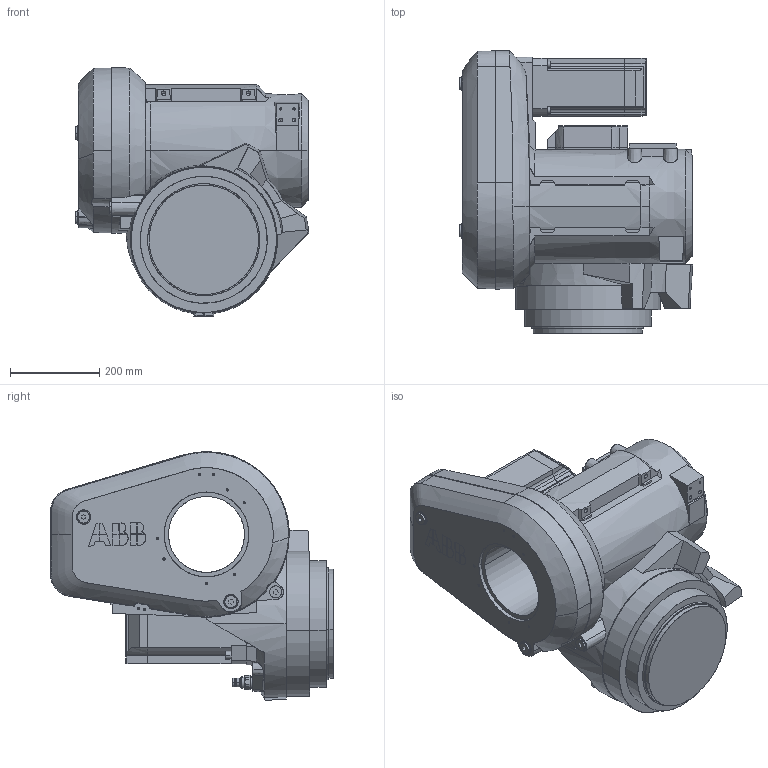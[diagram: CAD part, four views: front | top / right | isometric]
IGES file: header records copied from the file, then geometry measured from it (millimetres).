
Start section: SolidWorks IGES file using analytic representation for surfaces
Global section: file name: B:\Robotics\SEROP_PROJ\Product Development\DevelopmentProjects\RobCal\Design\CAD simuleringsmodeller\Till_RobotStudio\IRB6700-HL\IRB6700_235-265_IRC5_rev02\IRB6700_235-265_IRC5_rev02_IGES_j\IRB6700_235-265_IRC5_rev05_LINK03_CAD.IGS; native system: SolidWorks 2014; preprocessor: SolidWorks 2014; author: SEEMTHE; date: 160127.112400; units: millimetre
Bounding box: 522.27 x 632.9 x 556.79 mm (x, y, z)
Surface area: 1764833.2 mm2 (no closed solid volume)
Topology: 0 solids, 0 shells, 718 faces, 9139 edges, 9097 vertices
Faces by surface type: bspline 411, revolution 307
